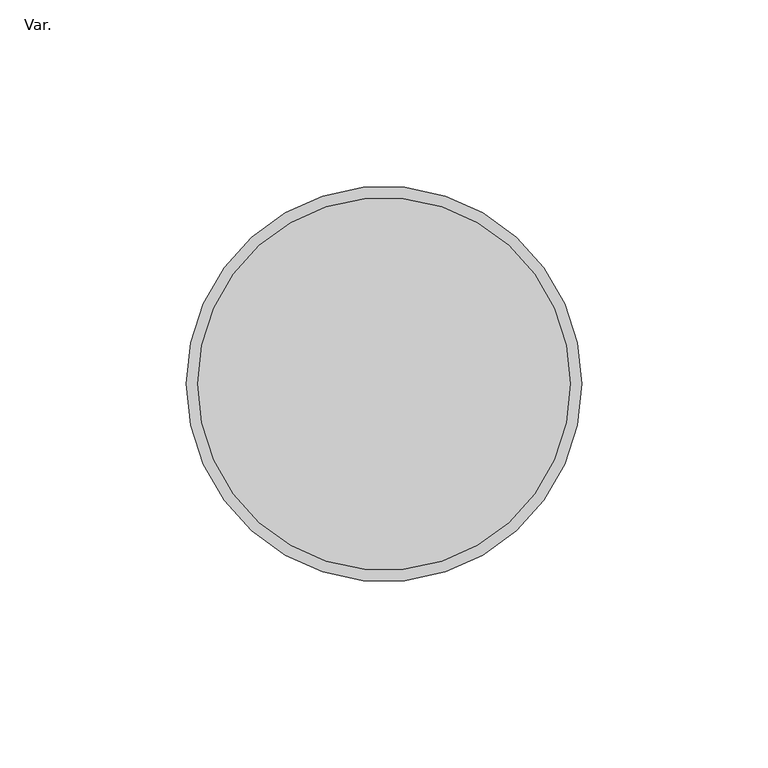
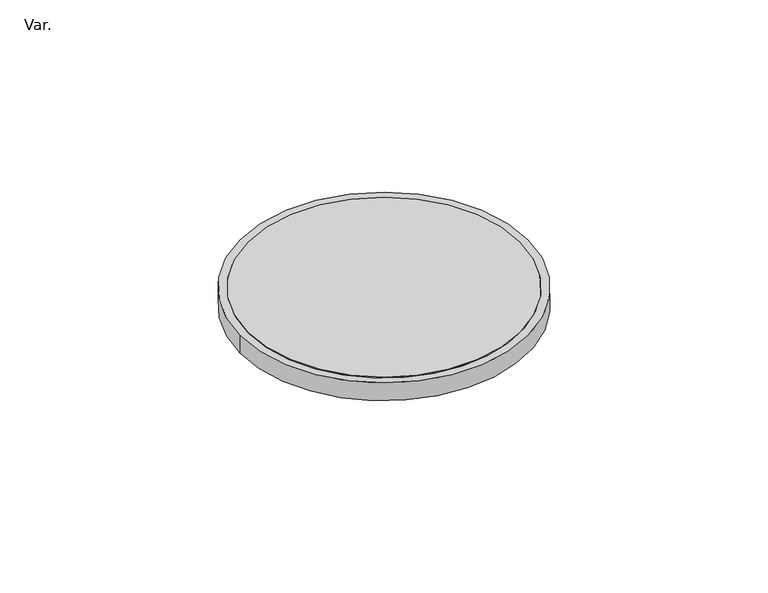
"""IFC4 building model written with IfcOpenShell, lengths in millimetres: pipe fitting geometry, Z_Amanco Esgoto Caixa Sif DN 100  RO GRID(Nested) : Var.."""

from ifc_helpers import new_model, si_unit, point, frame, origin, origin_2d, place, context, project, spatial, circle_curve, trimmed, segment, composite_curve, outline, extrude, source, transform, mapped, element, save


def var_6f0030ce(model_context):
    return source(origin(), model_context, "Body", "SweptSolid", [
        extrude(outline(composite_curve([segment(trimmed(circle_curve(origin_2d(), 50.0), [point((-50.0, 0.0))], [point((50.0, 0.0))], False, "CARTESIAN"), True, "CONTINUOUS"), segment(trimmed(circle_curve(origin_2d(), 50.0), [point((50.0, 0.0))], [point((-50.0, 0.0))], False, "CARTESIAN"), True, "CONTINUOUS")], self_intersect=False)), frame((0.0, 0.0, -7.0), z_axis=(0.0, 0.0, 1.0), x_axis=(1.0, 0.0, 0.0)), (0.0, 0.0, 1.0), 7.1),
        extrude(outline(composite_curve([segment(trimmed(circle_curve(origin_2d(), 53.0), [point((-53.0, 0.0))], [point((53.0, 0.0))], False, "CARTESIAN"), True, "CONTINUOUS"), segment(trimmed(circle_curve(origin_2d(), 53.0), [point((53.0, 0.0))], [point((-53.0, 0.0))], False, "CARTESIAN"), True, "CONTINUOUS")], self_intersect=False), holes=[composite_curve([segment(trimmed(circle_curve(origin_2d(), 50.0), [point((-50.0, 0.0))], [point((50.0, 0.0))], True, "CARTESIAN"), True, "CONTINUOUS"), segment(trimmed(circle_curve(origin_2d(), 50.0), [point((50.0, 0.0))], [point((-50.0, 0.0))], True, "CARTESIAN"), True, "CONTINUOUS")], self_intersect=False)]), frame((0.0, 0.0, -7.0), z_axis=(0.0, 0.0, 1.0), x_axis=(1.0, 0.0, 0.0)), (0.0, 0.0, 1.0), 7.0),
    ])


if __name__ == "__main__":
    model = new_model("IFC4")
    model_context = context("Model", 3, world=origin())
    ifc_project = project(units=[si_unit("LENGTHUNIT", "METRE", prefix="MILLI")], contexts=[model_context])
    site = spatial("IfcSite", under=ifc_project)
    building = spatial("IfcBuilding", under=site)
    placement = place(None, origin())
    var_shape = var_6f0030ce(model_context)
    element("IfcPipeFitting", 1, ObjectType="Z_Amanco Esgoto Caixa Sif DN 100  RO GRID(Nested) : Var.", at=placement, inside=building, context=model_context, shape_type="MappedRepresentation", body=[
        mapped(var_shape, transform((0.0, 0.0, 0.0), x_axis=(1.0, 0.0, 0.0), y_axis=(0.0, 1.0, 0.0), z_axis=(0.0, 0.0, 1.0))),
    ])
    save(model, "model.ifc")
